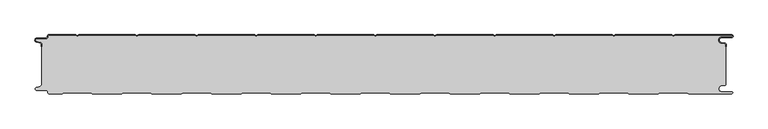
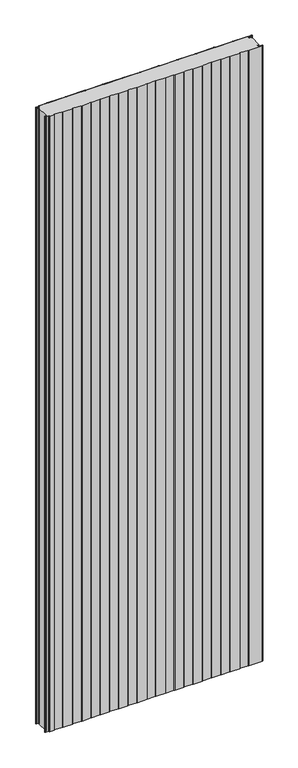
"""IFC4 building model written with IfcOpenShell, lengths in millimetres: plate geometry, PM1_Curtain-Panel_Perfil-Estándar : ACH_PM1_Panel-Acústico-Sectorización_100M."""

from ifc_helpers import new_model, si_unit, point, frame, frame_2d, origin, origin_with_axes, place, context, project, spatial, polyline, circle_curve, trimmed, segment, composite_curve, outline, extrude, source, transform, mapped, element, save
from ifc_brep_helpers import plane_surface, cylinder_surface, revolved_surface, advanced_brep


def plate_bc3a73cf(model_context):
    return source(origin(), model_context, "Body", "SolidModel", [
        advanced_brep(
        [(-575.0, -15.878557, 3500.0), (-575.0, -20.0, 3500.0), (-574.2, -20.0, 3500.0), (-574.2, -15.878557, 3500.0), (-576.370137, -13.1503208, 3500.0), (-582.529863, -11.728236, 3500.0), (-581.9, -6.2, 3500.0), (-566.4, -6.2, 3500.0), (-563.6, -3.4, 3500.0), (-563.6, -2.0, 3500.0), (-562.4, -0.8, 3500.0), (-517.3143588, -0.8, 3500.0), (-514.4, -2.482606, 3500.0), (-511.4856412, -0.8, 3500.0), (-417.3143588, -0.8, 3500.0), (-414.4, -2.482606, 3500.0), (-411.4856412, -0.8, 3500.0), (-317.3143588, -0.8, 3500.0), (-314.4, -2.482606, 3500.0), (-311.4856412, -0.8, 3500.0), (-217.3143588, -0.8, 3500.0), (-214.4, -2.482606, 3500.0), (-211.4856412, -0.8, 3500.0), (-117.3143588, -0.8, 3500.0), (-114.4, -2.482606, 3500.0), (-111.4856412, -0.8, 3500.0), (-17.3143588, -0.8, 3500.0), (-14.4, -2.482606, 3500.0), (-11.4856412, -0.8, 3500.0), (82.6856412, -0.8, 3500.0), (85.6, -2.482606, 3500.0), (88.5143588, -0.8, 3500.0), (182.6856412, -0.8, 3500.0), (185.6, -2.482606, 3500.0), (188.5143588, -0.8, 3500.0), (282.6856412, -0.8, 3500.0), (285.6, -2.482606, 3500.0), (288.5143588, -0.8, 3500.0), (382.6856412, -0.8, 3500.0), (385.6, -2.482606, 3500.0), (388.5143588, -0.8, 3500.0), (482.6856412, -0.8, 3500.0), (485.6, -2.482606, 3500.0), (488.5143588, -0.8, 3500.0), (583.1, -0.8, 3500.0), (583.1, -4.2, 3500.0), (566.1, -4.2, 3500.0), (565.2664884, -13.7270771, 3500.0), (571.7125669, -14.8636953, 3500.0), (573.2, -16.6363492, 3500.0), (573.2, -20.0, 3500.0), (574.0, -20.0, 3500.0), (574.0, -16.6363492, 3500.0), (571.8514855, -14.0758491, 3500.0), (565.405407, -12.939231, 3500.0), (566.1, -5.0, 3500.0), (583.1, -5.0, 3500.0), (585.6, -2.5, 3500.0), (583.1, 0.0, 3500.0), (488.2999995, 0.0, 3500.0), (485.6, -1.5588455, 3500.0), (482.9000005, 0.0, 3500.0), (388.2999995, 0.0, 3500.0), (385.6, -1.5588455, 3500.0), (382.9000005, 0.0, 3500.0), (288.2999995, 0.0, 3500.0), (285.6, -1.5588455, 3500.0), (282.9000005, 0.0, 3500.0), (188.2999995, 0.0, 3500.0), (185.6, -1.5588455, 3500.0), (182.9000005, 0.0, 3500.0), (88.2999995, 0.0, 3500.0), (85.6, -1.5588455, 3500.0), (82.9000005, 0.0, 3500.0), (-11.7000005, 0.0, 3500.0), (-14.4, -1.5588455, 3500.0), (-17.0999995, 0.0, 3500.0), (-111.7000005, 0.0, 3500.0), (-114.4, -1.5588455, 3500.0), (-117.0999995, 0.0, 3500.0), (-211.7000005, 0.0, 3500.0), (-214.4, -1.5588455, 3500.0), (-217.0999995, 0.0, 3500.0), (-311.7000005, 0.0, 3500.0), (-314.4, -1.5588455, 3500.0), (-317.0999995, 0.0, 3500.0), (-411.7000005, 0.0, 3500.0), (-414.4, -1.5588455, 3500.0), (-417.0999995, 0.0, 3500.0), (-511.7000005, 0.0, 3500.0), (-514.4, -1.5588455, 3500.0), (-517.0999995, 0.0, 3500.0), (-562.4, 0.0, 3500.0), (-564.4, -2.0, 3500.0), (-564.4, -3.4, 3500.0), (-566.4, -5.4, 3500.0), (-581.9, -5.4, 3500.0), (-582.7098239, -12.5077322, 3500.0), (-576.5500979, -13.929817, 3500.0), (-575.0, -15.878557, 0.0), (-576.5500978, -13.9298169, 0.0), (-582.7098239, -12.507732, 0.0), (-581.9, -5.4, 0.0), (-566.4, -5.4, 0.0), (-564.4, -3.4, 0.0), (-564.4, -2.0, 0.0), (-562.4, 0.0, 0.0), (-517.0999995, 0.0, 0.0), (-514.4, -1.5588455, 0.0), (-511.7000005, 0.0, 0.0), (-417.0999995, 0.0, 0.0), (-414.4, -1.5588455, 0.0), (-411.7000005, 0.0, 0.0), (-317.0999995, 0.0, 0.0), (-314.4, -1.5588455, 0.0), (-311.7000005, 0.0, 0.0), (-217.0999995, 0.0, 0.0), (-214.4, -1.5588455, 0.0), (-211.7000005, 0.0, 0.0), (-117.0999995, 0.0, 0.0), (-114.4, -1.5588455, 0.0), (-111.7000005, 0.0, 0.0), (-17.0999995, 0.0, 0.0), (-14.4, -1.5588455, 0.0), (-11.7000005, 0.0, 0.0), (82.9000005, 0.0, 0.0), (85.6, -1.5588455, 0.0), (88.2999995, 0.0, 0.0), (182.9000005, 0.0, 0.0), (185.6, -1.5588455, 0.0), (188.2999995, 0.0, 0.0), (282.9000005, 0.0, 0.0), (285.6, -1.5588455, 0.0), (288.2999995, 0.0, 0.0), (382.9000005, 0.0, 0.0), (385.6, -1.5588455, 0.0), (388.2999995, 0.0, 0.0), (482.9000005, 0.0, 0.0), (485.6, -1.5588455, 0.0), (488.2999995, 0.0, 0.0), (583.1, 0.0, 0.0), (585.6, -2.5, 0.0), (583.1, -5.0, 0.0), (566.1, -5.0, 0.0), (565.405407, -12.939231, 0.0), (571.8514855, -14.0758491, 0.0), (574.0, -16.6363492, 0.0), (574.0, -20.0, 0.0), (573.2, -20.0, 0.0), (573.2, -16.6363492, 0.0), (571.7125669, -14.8636953, 0.0), (565.2664884, -13.7270772, 0.0), (566.1, -4.2, 0.0), (583.1, -4.2, 0.0), (583.1, -0.8, 0.0), (488.5143588, -0.8, 0.0), (485.6, -2.482606, 0.0), (482.6856412, -0.8, 0.0), (388.5143588, -0.8, 0.0), (385.6, -2.482606, 0.0), (382.6856412, -0.8, 0.0), (288.5143588, -0.8, 0.0), (285.6, -2.482606, 0.0), (282.6856412, -0.8, 0.0), (188.5143588, -0.8, 0.0), (185.6, -2.482606, 0.0), (182.6856412, -0.8, 0.0), (88.5143588, -0.8, 0.0), (85.6, -2.482606, 0.0), (82.6856412, -0.8, 0.0), (-11.4856412, -0.8, 0.0), (-14.4, -2.482606, 0.0), (-17.3143588, -0.8, 0.0), (-111.4856412, -0.8, 0.0), (-114.4, -2.482606, 0.0), (-117.3143588, -0.8, 0.0), (-211.4856412, -0.8, 0.0), (-214.4, -2.482606, 0.0), (-217.3143588, -0.8, 0.0), (-311.4856412, -0.8, 0.0), (-314.4, -2.482606, 0.0), (-317.3143588, -0.8, 0.0), (-411.4856412, -0.8, 0.0), (-414.4, -2.482606, 0.0), (-417.3143588, -0.8, 0.0), (-511.4856412, -0.8, 0.0), (-514.4, -2.482606, 0.0), (-517.3143588, -0.8, 0.0), (-562.4, -0.8, 0.0), (-563.6, -2.0, 0.0), (-563.6, -3.4, 0.0), (-566.4, -6.2, 0.0), (-581.9, -6.2, 0.0), (-582.529863, -11.7282362, 0.0), (-576.370137, -13.150321, 0.0), (-574.2, -15.878557, 0.0), (-574.2, -20.0, 0.0), (-575.0, -20.0, 0.0)],
        [
            (0, 1),
            (1, 2),
            (2, 3),
            (3, 4, circle_curve(frame((-577.0, -15.878557, 3500.0), z_axis=(0.0, 0.0, 1.0), x_axis=(1.0, 0.0, 0.0)), 2.8)),
            (4, 5),
            (5, 6, circle_curve(frame((-581.9, -9.0, 3500.0), z_axis=(0.0, 0.0, -1.0), x_axis=(1.0, 0.0, 0.0)), 2.8)),
            (6, 7),
            (7, 8, circle_curve(frame((-566.4, -3.4, 3500.0), z_axis=(0.0, 0.0, 1.0), x_axis=(1.0, 0.0, 0.0)), 2.8)),
            (8, 9),
            (9, 10, circle_curve(frame((-562.4, -2.0, 3500.0), z_axis=(0.0, 0.0, -1.0), x_axis=(1.0, 0.0, 0.0)), 1.2)),
            (10, 11),
            (11, 12),
            (12, 13),
            (13, 14),
            (14, 15),
            (15, 16),
            (16, 17),
            (17, 18),
            (18, 19),
            (19, 20),
            (20, 21),
            (21, 22),
            (22, 23),
            (23, 24),
            (24, 25),
            (25, 26),
            (26, 27),
            (27, 28),
            (28, 29),
            (29, 30),
            (30, 31),
            (31, 32),
            (32, 33),
            (33, 34),
            (34, 35),
            (35, 36),
            (36, 37),
            (37, 38),
            (38, 39),
            (39, 40),
            (40, 41),
            (41, 42),
            (42, 43),
            (43, 44),
            (44, 45, circle_curve(frame((583.1, -2.5, 3500.0), z_axis=(0.0, 0.0, -1.0), x_axis=(1.0, 0.0, 0.0)), 1.7)),
            (45, 46),
            (46, 47, circle_curve(frame((566.1, -9.0, 3500.0), z_axis=(0.0, 0.0, 1.0), x_axis=(1.0, 0.0, 0.0)), 4.8)),
            (47, 48),
            (48, 49, circle_curve(frame((571.4, -16.6363492, 3500.0), z_axis=(0.0, 0.0, -1.0), x_axis=(1.0, 0.0, 0.0)), 1.8)),
            (49, 50),
            (50, 51),
            (51, 52),
            (52, 53, circle_curve(frame((571.4, -16.6363492, 3500.0), z_axis=(0.0, 0.0, 1.0), x_axis=(1.0, 0.0, 0.0)), 2.6)),
            (53, 54),
            (54, 55, circle_curve(frame((566.1, -9.0, 3500.0), z_axis=(0.0, 0.0, -1.0), x_axis=(1.0, 0.0, 0.0)), 4.0)),
            (55, 56),
            (56, 57, circle_curve(frame((583.1, -2.5, 3500.0), z_axis=(0.0, 0.0, 1.0), x_axis=(1.0, 0.0, 0.0)), 2.5)),
            (57, 58, circle_curve(frame((583.1, -2.5, 3500.0), z_axis=(0.0, 0.0, 1.0), x_axis=(1.0, 0.0, 0.0)), 2.5)),
            (58, 59),
            (59, 60),
            (60, 61),
            (61, 62),
            (62, 63),
            (63, 64),
            (64, 65),
            (65, 66),
            (66, 67),
            (67, 68),
            (68, 69),
            (69, 70),
            (70, 71),
            (71, 72),
            (72, 73),
            (73, 74),
            (74, 75),
            (75, 76),
            (76, 77),
            (77, 78),
            (78, 79),
            (79, 80),
            (80, 81),
            (81, 82),
            (82, 83),
            (83, 84),
            (84, 85),
            (85, 86),
            (86, 87),
            (87, 88),
            (88, 89),
            (89, 90),
            (90, 91),
            (91, 92),
            (92, 93, circle_curve(frame((-562.4, -2.0, 3500.0), z_axis=(0.0, 0.0, 1.0), x_axis=(1.0, 0.0, 0.0)), 2.0)),
            (93, 94),
            (94, 95, circle_curve(frame((-566.4, -3.4, 3500.0), z_axis=(0.0, 0.0, -1.0), x_axis=(1.0, 0.0, 0.0)), 2.0)),
            (95, 96),
            (96, 97, circle_curve(frame((-581.9, -9.0, 3500.0), z_axis=(0.0, 0.0, 1.0), x_axis=(1.0, 0.0, 0.0)), 3.6)),
            (97, 98),
            (98, 0, circle_curve(frame((-577.0, -15.878557, 3500.0), z_axis=(0.0, 0.0, -1.0), x_axis=(1.0, 0.0, 0.0)), 2.0)),
            (99, 100, circle_curve(frame((-577.0, -15.878557, 0.0), z_axis=(0.0, 0.0, 1.0), x_axis=(1.0, 0.0, 0.0)), 2.0)),
            (100, 101),
            (101, 102, circle_curve(frame((-581.9, -9.0, 0.0), z_axis=(0.0, 0.0, -1.0), x_axis=(1.0, 0.0, 0.0)), 3.6)),
            (102, 103),
            (103, 104, circle_curve(frame((-566.4, -3.4, 0.0), z_axis=(0.0, 0.0, 1.0), x_axis=(1.0, 0.0, 0.0)), 2.0)),
            (104, 105),
            (105, 106, circle_curve(frame((-562.4, -2.0, 0.0), z_axis=(0.0, 0.0, -1.0), x_axis=(1.0, 0.0, 0.0)), 2.0)),
            (106, 107),
            (107, 108),
            (108, 109),
            (109, 110),
            (110, 111),
            (111, 112),
            (112, 113),
            (113, 114),
            (114, 115),
            (115, 116),
            (116, 117),
            (117, 118),
            (118, 119),
            (119, 120),
            (120, 121),
            (121, 122),
            (122, 123),
            (123, 124),
            (124, 125),
            (125, 126),
            (126, 127),
            (127, 128),
            (128, 129),
            (129, 130),
            (130, 131),
            (131, 132),
            (132, 133),
            (133, 134),
            (134, 135),
            (135, 136),
            (136, 137),
            (137, 138),
            (138, 139),
            (139, 140),
            (140, 141, circle_curve(frame((583.1, -2.5, 0.0), z_axis=(0.0, 0.0, -1.0), x_axis=(1.0, 0.0, 0.0)), 2.5)),
            (141, 142, circle_curve(frame((583.1, -2.5, 0.0), z_axis=(0.0, 0.0, -1.0), x_axis=(1.0, 0.0, 0.0)), 2.5)),
            (142, 143),
            (143, 144, circle_curve(frame((566.1, -9.0, 0.0), z_axis=(0.0, 0.0, 1.0), x_axis=(1.0, 0.0, 0.0)), 4.0)),
            (144, 145),
            (145, 146, circle_curve(frame((571.4, -16.6363492, 0.0), z_axis=(0.0, 0.0, -1.0), x_axis=(1.0, 0.0, 0.0)), 2.6)),
            (146, 147),
            (147, 148),
            (148, 149),
            (149, 150, circle_curve(frame((571.4, -16.6363492, 0.0), z_axis=(0.0, 0.0, 1.0), x_axis=(1.0, 0.0, 0.0)), 1.8)),
            (150, 151),
            (151, 152, circle_curve(frame((566.1, -9.0, 0.0), z_axis=(0.0, 0.0, -1.0), x_axis=(1.0, 0.0, 0.0)), 4.8)),
            (152, 153),
            (153, 154, circle_curve(frame((583.1, -2.5, 0.0), z_axis=(0.0, 0.0, 1.0), x_axis=(1.0, 0.0, 0.0)), 1.7)),
            (154, 155),
            (155, 156),
            (156, 157),
            (157, 158),
            (158, 159),
            (159, 160),
            (160, 161),
            (161, 162),
            (162, 163),
            (163, 164),
            (164, 165),
            (165, 166),
            (166, 167),
            (167, 168),
            (168, 169),
            (169, 170),
            (170, 171),
            (171, 172),
            (172, 173),
            (173, 174),
            (174, 175),
            (175, 176),
            (176, 177),
            (177, 178),
            (178, 179),
            (179, 180),
            (180, 181),
            (181, 182),
            (182, 183),
            (183, 184),
            (184, 185),
            (185, 186),
            (186, 187),
            (187, 188),
            (188, 189, circle_curve(frame((-562.4, -2.0, 0.0), z_axis=(0.0, 0.0, 1.0), x_axis=(1.0, 0.0, 0.0)), 1.2)),
            (189, 190),
            (190, 191, circle_curve(frame((-566.4, -3.4, 0.0), z_axis=(0.0, 0.0, -1.0), x_axis=(1.0, 0.0, 0.0)), 2.8)),
            (191, 192),
            (192, 193, circle_curve(frame((-581.9, -9.0, 0.0), z_axis=(0.0, 0.0, 1.0), x_axis=(1.0, 0.0, 0.0)), 2.8)),
            (193, 194),
            (194, 195, circle_curve(frame((-577.0, -15.878557, 0.0), z_axis=(0.0, 0.0, -1.0), x_axis=(1.0, 0.0, 0.0)), 2.8)),
            (195, 196),
            (196, 197),
            (197, 99),
            (0, 99),
            (197, 1),
            (196, 2),
            (195, 3),
            (194, 4),
            (193, 5),
            (192, 6),
            (191, 7),
            (190, 8),
            (189, 9),
            (188, 10),
            (187, 11),
            (186, 12),
            (185, 13),
            (184, 14),
            (183, 15),
            (182, 16),
            (181, 17),
            (180, 18),
            (179, 19),
            (178, 20),
            (177, 21),
            (176, 22),
            (175, 23),
            (174, 24),
            (173, 25),
            (172, 26),
            (171, 27),
            (170, 28),
            (169, 29),
            (168, 30),
            (167, 31),
            (166, 32),
            (165, 33),
            (164, 34),
            (163, 35),
            (162, 36),
            (161, 37),
            (160, 38),
            (159, 39),
            (158, 40),
            (157, 41),
            (156, 42),
            (155, 43),
            (154, 44),
            (153, 45),
            (152, 46),
            (151, 47),
            (150, 48),
            (149, 49),
            (148, 50),
            (147, 51),
            (146, 52),
            (145, 53),
            (144, 54),
            (143, 55),
            (142, 56),
            (140, 58),
            (139, 59),
            (138, 60),
            (137, 61),
            (136, 62),
            (135, 63),
            (134, 64),
            (133, 65),
            (132, 66),
            (131, 67),
            (130, 68),
            (129, 69),
            (128, 70),
            (127, 71),
            (126, 72),
            (125, 73),
            (124, 74),
            (123, 75),
            (122, 76),
            (121, 77),
            (120, 78),
            (119, 79),
            (118, 80),
            (117, 81),
            (116, 82),
            (115, 83),
            (114, 84),
            (113, 85),
            (112, 86),
            (111, 87),
            (110, 88),
            (109, 89),
            (108, 90),
            (107, 91),
            (106, 92),
            (105, 93),
            (104, 94),
            (103, 95),
            (102, 96),
            (101, 97),
            (100, 98),
        ],
        [
            plane_surface(frame((-575.0, 0.0, 3500.0), z_axis=(0.0, 0.0, 1.0), x_axis=(0.0, 1.0, 0.0))),
            plane_surface(frame((-575.0, 0.0, 0.0), z_axis=(0.0, 0.0, -1.0), x_axis=(0.0, 1.0, 0.0))),
            plane_surface(frame((-575.0, -15.878557, 3500.0), z_axis=(-1.0, 0.0, 0.0), x_axis=(0.0, 0.0, -1.0))),
            plane_surface(frame((-575.0, -20.0, 3500.0), z_axis=(0.0, -1.0, 0.0), x_axis=(0.0, 0.0, -1.0))),
            plane_surface(frame((-574.2, -20.0, 3500.0), z_axis=(1.0, 0.0, 0.0), x_axis=(0.0, 0.0, -1.0))),
            cylinder_surface(frame((-577.0, -15.878557, 3500.0), z_axis=(0.0, 0.0, 1.0), x_axis=(1.0, 0.0, 0.0)), 2.8),
            plane_surface(frame((-576.370137, -13.150321, 3500.0), z_axis=(0.22495108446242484, 0.9743700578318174, 0.0), x_axis=(0.0, 0.0, -1.0))),
            revolved_surface(polyline([(-579.1, -9.0, 0.0), (-579.1, -9.0, 3500.0)]), (-581.9, -9.0, 3500.0), (0.0, 0.0, -1.0)),
            plane_surface(frame((-581.9, -6.2, 3500.0), z_axis=(0.0, -1.0, 0.0), x_axis=(0.0, 0.0, -1.0))),
            cylinder_surface(frame((-566.4, -3.4, 3500.0), z_axis=(0.0, 0.0, 1.0), x_axis=(1.0, 0.0, 0.0)), 2.8),
            plane_surface(frame((-563.6, -3.4, 3500.0), z_axis=(1.0, 0.0, 0.0), x_axis=(0.0, 0.0, -1.0))),
            revolved_surface(polyline([(-561.1999999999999, -2.0, 0.0), (-561.1999999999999, -2.0, 3500.0)]), (-562.4, -2.0, 3500.0), (0.0, 0.0, -1.0)),
            plane_surface(frame((-562.4, -0.8, 3500.0), z_axis=(0.0, -1.0, 0.0), x_axis=(0.0, 0.0, -1.0))),
            plane_surface(frame((-517.3143588, -0.8, 3500.0), z_axis=(-0.5000000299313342, -0.8660253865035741, 0.0), x_axis=(0.0, 0.0, -1.0))),
            plane_surface(frame((-514.4, -2.482606, 3500.0), z_axis=(0.5000000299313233, -0.8660253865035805, 0.0), x_axis=(0.0, 0.0, -1.0))),
            plane_surface(frame((-511.4856412, -0.8, 3500.0), z_axis=(0.0, -1.0, 0.0), x_axis=(0.0, 0.0, -1.0))),
            plane_surface(frame((-417.3143588, -0.8, 3500.0), z_axis=(-0.5000000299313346, -0.8660253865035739, 0.0), x_axis=(0.0, 0.0, -1.0))),
            plane_surface(frame((-414.4, -2.482606, 3500.0), z_axis=(0.5000000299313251, -0.8660253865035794, 0.0), x_axis=(0.0, 0.0, -1.0))),
            plane_surface(frame((-411.4856412, -0.8, 3500.0), z_axis=(0.0, -1.0, 0.0), x_axis=(0.0, 0.0, -1.0))),
            plane_surface(frame((-317.3143588, -0.8, 3500.0), z_axis=(-0.5000000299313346, -0.866025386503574, 0.0), x_axis=(0.0, 0.0, -1.0))),
            plane_surface(frame((-314.4, -2.482606, 3500.0), z_axis=(0.5000000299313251, -0.8660253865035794, 0.0), x_axis=(0.0, 0.0, -1.0))),
            plane_surface(frame((-311.4856412, -0.8, 3500.0), z_axis=(0.0, -1.0, 0.0), x_axis=(0.0, 0.0, -1.0))),
            plane_surface(frame((-217.3143588, -0.8, 3500.0), z_axis=(-0.5000000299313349, -0.8660253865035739, 0.0), x_axis=(0.0, 0.0, -1.0))),
            plane_surface(frame((-214.4, -2.482606, 3500.0), z_axis=(0.5000000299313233, -0.8660253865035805, 0.0), x_axis=(0.0, 0.0, -1.0))),
            plane_surface(frame((-211.4856412, -0.8, 3500.0), z_axis=(0.0, -1.0, 0.0), x_axis=(0.0, 0.0, -1.0))),
            plane_surface(frame((-117.3143588, -0.8, 3500.0), z_axis=(-0.5000000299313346, -0.866025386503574, 0.0), x_axis=(0.0, 0.0, -1.0))),
            plane_surface(frame((-114.4, -2.482606, 3500.0), z_axis=(0.5000000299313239, -0.8660253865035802, 0.0), x_axis=(0.0, 0.0, -1.0))),
            plane_surface(frame((-111.4856412, -0.8, 3500.0), z_axis=(0.0, -1.0, 0.0), x_axis=(0.0, 0.0, -1.0))),
            plane_surface(frame((-17.3143588, -0.8, 3500.0), z_axis=(-0.5000000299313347, -0.8660253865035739, 0.0), x_axis=(0.0, 0.0, -1.0))),
            plane_surface(frame((-14.4, -2.482606, 3500.0), z_axis=(0.5000000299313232, -0.8660253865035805, 0.0), x_axis=(0.0, 0.0, -1.0))),
            plane_surface(frame((-11.4856412, -0.8, 3500.0), z_axis=(0.0, -1.0, 0.0), x_axis=(0.0, 0.0, -1.0))),
            plane_surface(frame((82.6856412, -0.8, 3500.0), z_axis=(-0.5000000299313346, -0.866025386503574, 0.0), x_axis=(0.0, 0.0, -1.0))),
            plane_surface(frame((85.6, -2.482606, 3500.0), z_axis=(0.5000000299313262, -0.8660253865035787, 0.0), x_axis=(0.0, 0.0, -1.0))),
            plane_surface(frame((88.5143588, -0.8, 3500.0), z_axis=(0.0, -1.0, 0.0), x_axis=(0.0, 0.0, -1.0))),
            plane_surface(frame((182.6856412, -0.8, 3500.0), z_axis=(-0.5000000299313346, -0.8660253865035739, 0.0), x_axis=(0.0, 0.0, -1.0))),
            plane_surface(frame((185.6, -2.482606, 3500.0), z_axis=(0.5000000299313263, -0.8660253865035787, 0.0), x_axis=(0.0, 0.0, -1.0))),
            plane_surface(frame((188.5143588, -0.8, 3500.0), z_axis=(0.0, -1.0, 0.0), x_axis=(0.0, 0.0, -1.0))),
            plane_surface(frame((282.6856412, -0.8, 3500.0), z_axis=(-0.5000000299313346, -0.8660253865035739, 0.0), x_axis=(0.0, 0.0, -1.0))),
            plane_surface(frame((285.6, -2.482606, 3500.0), z_axis=(0.5000000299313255, -0.8660253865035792, 0.0), x_axis=(0.0, 0.0, -1.0))),
            plane_surface(frame((288.5143588, -0.8, 3500.0), z_axis=(0.0, -1.0, 0.0), x_axis=(0.0, 0.0, -1.0))),
            plane_surface(frame((382.6856412, -0.8, 3500.0), z_axis=(-0.5000000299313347, -0.8660253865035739, 0.0), x_axis=(0.0, 0.0, -1.0))),
            plane_surface(frame((385.6, -2.482606, 3500.0), z_axis=(0.5000000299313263, -0.8660253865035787, 0.0), x_axis=(0.0, 0.0, -1.0))),
            plane_surface(frame((388.5143588, -0.8, 3500.0), z_axis=(0.0, -1.0, 0.0), x_axis=(0.0, 0.0, -1.0))),
            plane_surface(frame((482.6856412, -0.8, 3500.0), z_axis=(-0.5000000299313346, -0.866025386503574, 0.0), x_axis=(0.0, 0.0, -1.0))),
            plane_surface(frame((485.6, -2.482606, 3500.0), z_axis=(0.5000000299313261, -0.8660253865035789, 0.0), x_axis=(0.0, 0.0, -1.0))),
            plane_surface(frame((535.6, -0.8, 3500.0), z_axis=(0.0, -1.0, 0.0), x_axis=(0.0, 0.0, -1.0))),
            revolved_surface(polyline([(584.8000000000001, -2.5, 0.0), (584.8000000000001, -2.5, 3500.0)]), (583.1, -2.5, 3500.0), (0.0, 0.0, -1.0)),
            plane_surface(frame((583.1, -4.2, 3500.0), z_axis=(0.0, 1.0, 0.0), x_axis=(0.0, 0.0, -1.0))),
            cylinder_surface(frame((566.1, -9.0, 3500.0), z_axis=(0.0, 0.0, 1.0), x_axis=(1.0, 0.0, 0.0)), 4.8),
            plane_surface(frame((565.2664884, -13.7270772, 3500.0), z_axis=(-0.17364825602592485, -0.9848077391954, 0.0), x_axis=(0.0, 0.0, -1.0))),
            revolved_surface(polyline([(573.1999999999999, -16.6363492, 0.0), (573.1999999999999, -16.6363492, 3500.0)]), (571.4, -16.6363492, 3500.0), (0.0, 0.0, -1.0)),
            plane_surface(frame((573.2, -16.6363492, 3500.0), z_axis=(-1.0, 0.0, 0.0), x_axis=(0.0, 0.0, -1.0))),
            plane_surface(frame((573.2, -20.0, 3500.0), z_axis=(0.0, -1.0, 0.0), x_axis=(0.0, 0.0, -1.0))),
            plane_surface(frame((574.0, -20.0, 3500.0), z_axis=(1.0, 0.0, 0.0), x_axis=(0.0, 0.0, -1.0))),
            cylinder_surface(frame((571.4, -16.6363492, 3500.0), z_axis=(0.0, 0.0, 1.0), x_axis=(1.0, 0.0, 0.0)), 2.6),
            plane_surface(frame((571.8514855, -14.0758491, 3500.0), z_axis=(0.1736482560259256, 0.9848077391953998, 0.0), x_axis=(0.0, 0.0, -1.0))),
            revolved_surface(polyline([(570.1, -9.0, 0.0), (570.1, -9.0, 3500.0)]), (566.1, -9.0, 3500.0), (0.0, 0.0, -1.0)),
            plane_surface(frame((566.1, -5.0, 3500.0), z_axis=(0.0, -1.0, 0.0), x_axis=(0.0, 0.0, -1.0))),
            cylinder_surface(frame((583.1, -2.5, 3500.0), z_axis=(0.0, 0.0, 1.0), x_axis=(1.0, 0.0, 0.0)), 2.5),
            plane_surface(frame((535.6, 0.0, 3500.0), z_axis=(0.0, 1.0, 0.0), x_axis=(0.0, 0.0, -1.0))),
            plane_surface(frame((488.2999995, 0.0, 3500.0), z_axis=(-0.5000000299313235, 0.8660253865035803, 0.0), x_axis=(0.0, 0.0, -1.0))),
            plane_surface(frame((485.6, -1.5588455, 3500.0), z_axis=(0.5000000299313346, 0.8660253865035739, 0.0), x_axis=(0.0, 0.0, -1.0))),
            plane_surface(frame((482.9000005, 0.0, 3500.0), z_axis=(0.0, 1.0, 0.0), x_axis=(0.0, 0.0, -1.0))),
            plane_surface(frame((388.2999995, 0.0, 3500.0), z_axis=(-0.5000000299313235, 0.8660253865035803, 0.0), x_axis=(0.0, 0.0, -1.0))),
            plane_surface(frame((385.6, -1.5588455, 3500.0), z_axis=(0.5000000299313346, 0.8660253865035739, 0.0), x_axis=(0.0, 0.0, -1.0))),
            plane_surface(frame((382.9000005, 0.0, 3500.0), z_axis=(0.0, 1.0, 0.0), x_axis=(0.0, 0.0, -1.0))),
            plane_surface(frame((288.2999995, 0.0, 3500.0), z_axis=(-0.5000000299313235, 0.8660253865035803, 0.0), x_axis=(0.0, 0.0, -1.0))),
            plane_surface(frame((285.6, -1.5588455, 3500.0), z_axis=(0.5000000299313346, 0.8660253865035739, 0.0), x_axis=(0.0, 0.0, -1.0))),
            plane_surface(frame((282.9000005, 0.0, 3500.0), z_axis=(0.0, 1.0, 0.0), x_axis=(0.0, 0.0, -1.0))),
            plane_surface(frame((188.2999995, 0.0, 3500.0), z_axis=(-0.5000000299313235, 0.8660253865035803, 0.0), x_axis=(0.0, 0.0, -1.0))),
            plane_surface(frame((185.6, -1.5588455, 3500.0), z_axis=(0.5000000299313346, 0.8660253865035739, 0.0), x_axis=(0.0, 0.0, -1.0))),
            plane_surface(frame((182.9000005, 0.0, 3500.0), z_axis=(0.0, 1.0, 0.0), x_axis=(0.0, 0.0, -1.0))),
            plane_surface(frame((88.2999995, 0.0, 3500.0), z_axis=(-0.5000000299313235, 0.8660253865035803, 0.0), x_axis=(0.0, 0.0, -1.0))),
            plane_surface(frame((85.6, -1.5588455, 3500.0), z_axis=(0.5000000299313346, 0.8660253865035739, 0.0), x_axis=(0.0, 0.0, -1.0))),
            plane_surface(frame((82.9000005, 0.0, 3500.0), z_axis=(0.0, 1.0, 0.0), x_axis=(0.0, 0.0, -1.0))),
            plane_surface(frame((-11.7000005, 0.0, 3500.0), z_axis=(-0.5000000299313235, 0.8660253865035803, 0.0), x_axis=(0.0, 0.0, -1.0))),
            plane_surface(frame((-14.4, -1.5588455, 3500.0), z_axis=(0.5000000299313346, 0.8660253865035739, 0.0), x_axis=(0.0, 0.0, -1.0))),
            plane_surface(frame((-17.0999995, 0.0, 3500.0), z_axis=(0.0, 1.0, 0.0), x_axis=(0.0, 0.0, -1.0))),
            plane_surface(frame((-111.7000005, 0.0, 3500.0), z_axis=(-0.5000000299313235, 0.8660253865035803, 0.0), x_axis=(0.0, 0.0, -1.0))),
            plane_surface(frame((-114.4, -1.5588455, 3500.0), z_axis=(0.5000000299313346, 0.8660253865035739, 0.0), x_axis=(0.0, 0.0, -1.0))),
            plane_surface(frame((-117.0999995, 0.0, 3500.0), z_axis=(0.0, 1.0, 0.0), x_axis=(0.0, 0.0, -1.0))),
            plane_surface(frame((-211.7000005, 0.0, 3500.0), z_axis=(-0.5000000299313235, 0.8660253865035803, 0.0), x_axis=(0.0, 0.0, -1.0))),
            plane_surface(frame((-214.4, -1.5588455, 3500.0), z_axis=(0.5000000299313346, 0.8660253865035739, 0.0), x_axis=(0.0, 0.0, -1.0))),
            plane_surface(frame((-217.0999995, 0.0, 3500.0), z_axis=(0.0, 1.0, 0.0), x_axis=(0.0, 0.0, -1.0))),
            plane_surface(frame((-311.7000005, 0.0, 3500.0), z_axis=(-0.5000000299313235, 0.8660253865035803, 0.0), x_axis=(0.0, 0.0, -1.0))),
            plane_surface(frame((-314.4, -1.5588455, 3500.0), z_axis=(0.5000000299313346, 0.8660253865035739, 0.0), x_axis=(0.0, 0.0, -1.0))),
            plane_surface(frame((-317.0999995, 0.0, 3500.0), z_axis=(0.0, 1.0, 0.0), x_axis=(0.0, 0.0, -1.0))),
            plane_surface(frame((-411.7000005, 0.0, 3500.0), z_axis=(-0.5000000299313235, 0.8660253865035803, 0.0), x_axis=(0.0, 0.0, -1.0))),
            plane_surface(frame((-414.4, -1.5588455, 3500.0), z_axis=(0.5000000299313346, 0.8660253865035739, 0.0), x_axis=(0.0, 0.0, -1.0))),
            plane_surface(frame((-417.0999995, 0.0, 3500.0), z_axis=(0.0, 1.0, 0.0), x_axis=(0.0, 0.0, -1.0))),
            plane_surface(frame((-511.7000005, 0.0, 3500.0), z_axis=(-0.5000000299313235, 0.8660253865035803, 0.0), x_axis=(0.0, 0.0, -1.0))),
            plane_surface(frame((-514.4, -1.5588455, 3500.0), z_axis=(0.5000000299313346, 0.8660253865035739, 0.0), x_axis=(0.0, 0.0, -1.0))),
            plane_surface(frame((-517.0999995, 0.0, 3500.0), z_axis=(0.0, 1.0, 0.0), x_axis=(0.0, 0.0, -1.0))),
            cylinder_surface(frame((-562.4, -2.0, 3500.0), z_axis=(0.0, 0.0, 1.0), x_axis=(1.0, 0.0, 0.0)), 2.0),
            plane_surface(frame((-564.4, -2.0, 3500.0), z_axis=(-1.0, 0.0, 0.0), x_axis=(0.0, 0.0, -1.0))),
            revolved_surface(polyline([(-564.4, -3.4, 0.0), (-564.4, -3.4, 3500.0)]), (-566.4, -3.4, 3500.0), (0.0, 0.0, -1.0)),
            plane_surface(frame((-566.4, -5.4, 3500.0), z_axis=(0.0, 1.0, 0.0), x_axis=(0.0, 0.0, -1.0))),
            cylinder_surface(frame((-581.9, -9.0, 3500.0), z_axis=(0.0, 0.0, 1.0), x_axis=(1.0, 0.0, 0.0)), 3.6),
            plane_surface(frame((-582.7098239, -12.507732, 3500.0), z_axis=(-0.22495108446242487, -0.9743700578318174, 0.0), x_axis=(0.0, 0.0, -1.0))),
            revolved_surface(polyline([(-575.0, -15.878557, 0.0), (-575.0, -15.878557, 3500.0)]), (-577.0, -15.878557, 3500.0), (0.0, 0.0, -1.0)),
        ],
        [
            (0, [[1, 2, 3, 4, 5, 6, 7, 8, 9, 10, 11, 12, 13, 14, 15, 16, 17, 18, 19, 20, 21, 22, 23, 24, 25, 26, 27, 28, 29, 30, 31, 32, 33, 34, 35, 36, 37, 38, 39, 40, 41, 42, 43, 44, 45, 46, 47, 48, 49, 50, 51, 52, 53, 54, 55, 56, 57, 58, 59, 60, 61, 62, 63, 64, 65, 66, 67, 68, 69, 70, 71, 72, 73, 74, 75, 76, 77, 78, 79, 80, 81, 82, 83, 84, 85, 86, 87, 88, 89, 90, 91, 92, 93, 94, 95, 96, 97, 98, 99]]),
            (1, [[100, 101, 102, 103, 104, 105, 106, 107, 108, 109, 110, 111, 112, 113, 114, 115, 116, 117, 118, 119, 120, 121, 122, 123, 124, 125, 126, 127, 128, 129, 130, 131, 132, 133, 134, 135, 136, 137, 138, 139, 140, 141, 142, 143, 144, 145, 146, 147, 148, 149, 150, 151, 152, 153, 154, 155, 156, 157, 158, 159, 160, 161, 162, 163, 164, 165, 166, 167, 168, 169, 170, 171, 172, 173, 174, 175, 176, 177, 178, 179, 180, 181, 182, 183, 184, 185, 186, 187, 188, 189, 190, 191, 192, 193, 194, 195, 196, 197, 198]]),
            (2, [[-1, 199, -198, 200]]),
            (3, [[-2, -200, -197, 201]]),
            (4, [[-3, -201, -196, 202]]),
            (5, [[-4, -202, -195, 203]]),
            (6, [[-5, -203, -194, 204]]),
            (7, [[-6, -204, -193, 205]]),
            (8, [[-7, -205, -192, 206]]),
            (9, [[-8, -206, -191, 207]]),
            (10, [[-9, -207, -190, 208]]),
            (11, [[-10, -208, -189, 209]]),
            (12, [[-11, -209, -188, 210]]),
            (13, [[-12, -210, -187, 211]]),
            (14, [[-13, -211, -186, 212]]),
            (15, [[-14, -212, -185, 213]]),
            (16, [[-15, -213, -184, 214]]),
            (17, [[-16, -214, -183, 215]]),
            (18, [[-17, -215, -182, 216]]),
            (19, [[-18, -216, -181, 217]]),
            (20, [[-19, -217, -180, 218]]),
            (21, [[-20, -218, -179, 219]]),
            (22, [[-21, -219, -178, 220]]),
            (23, [[-22, -220, -177, 221]]),
            (24, [[-23, -221, -176, 222]]),
            (25, [[-24, -222, -175, 223]]),
            (26, [[-25, -223, -174, 224]]),
            (27, [[-26, -224, -173, 225]]),
            (28, [[-27, -225, -172, 226]]),
            (29, [[-28, -226, -171, 227]]),
            (30, [[-29, -227, -170, 228]]),
            (31, [[-30, -228, -169, 229]]),
            (32, [[-31, -229, -168, 230]]),
            (33, [[-32, -230, -167, 231]]),
            (34, [[-33, -231, -166, 232]]),
            (35, [[-34, -232, -165, 233]]),
            (36, [[-35, -233, -164, 234]]),
            (37, [[-36, -234, -163, 235]]),
            (38, [[-37, -235, -162, 236]]),
            (39, [[-38, -236, -161, 237]]),
            (40, [[-39, -237, -160, 238]]),
            (41, [[-40, -238, -159, 239]]),
            (42, [[-41, -239, -158, 240]]),
            (43, [[-42, -240, -157, 241]]),
            (44, [[-43, -241, -156, 242]]),
            (45, [[-44, -242, -155, 243]]),
            (46, [[-45, -243, -154, 244]]),
            (47, [[-46, -244, -153, 245]]),
            (48, [[-47, -245, -152, 246]]),
            (49, [[-48, -246, -151, 247]]),
            (50, [[-49, -247, -150, 248]]),
            (51, [[-50, -248, -149, 249]]),
            (52, [[-51, -249, -148, 250]]),
            (53, [[-52, -250, -147, 251]]),
            (54, [[-53, -251, -146, 252]]),
            (55, [[-54, -252, -145, 253]]),
            (56, [[-55, -253, -144, 254]]),
            (57, [[-56, -254, -143, 255]]),
            (58, [[-255, -142, -141, 256, -58, -57]]),
            (59, [[-59, -256, -140, 257]]),
            (60, [[-60, -257, -139, 258]]),
            (61, [[-61, -258, -138, 259]]),
            (62, [[-62, -259, -137, 260]]),
            (63, [[-63, -260, -136, 261]]),
            (64, [[-64, -261, -135, 262]]),
            (65, [[-65, -262, -134, 263]]),
            (66, [[-66, -263, -133, 264]]),
            (67, [[-67, -264, -132, 265]]),
            (68, [[-68, -265, -131, 266]]),
            (69, [[-69, -266, -130, 267]]),
            (70, [[-70, -267, -129, 268]]),
            (71, [[-71, -268, -128, 269]]),
            (72, [[-72, -269, -127, 270]]),
            (73, [[-73, -270, -126, 271]]),
            (74, [[-74, -271, -125, 272]]),
            (75, [[-75, -272, -124, 273]]),
            (76, [[-76, -273, -123, 274]]),
            (77, [[-77, -274, -122, 275]]),
            (78, [[-78, -275, -121, 276]]),
            (79, [[-79, -276, -120, 277]]),
            (80, [[-80, -277, -119, 278]]),
            (81, [[-81, -278, -118, 279]]),
            (82, [[-82, -279, -117, 280]]),
            (83, [[-83, -280, -116, 281]]),
            (84, [[-84, -281, -115, 282]]),
            (85, [[-85, -282, -114, 283]]),
            (86, [[-86, -283, -113, 284]]),
            (87, [[-87, -284, -112, 285]]),
            (88, [[-88, -285, -111, 286]]),
            (89, [[-89, -286, -110, 287]]),
            (90, [[-90, -287, -109, 288]]),
            (91, [[-91, -288, -108, 289]]),
            (92, [[-92, -289, -107, 290]]),
            (93, [[-93, -290, -106, 291]]),
            (94, [[-94, -291, -105, 292]]),
            (95, [[-95, -292, -104, 293]]),
            (96, [[-96, -293, -103, 294]]),
            (97, [[-97, -294, -102, 295]]),
            (98, [[-98, -295, -101, 296]]),
            (99, [[-99, -296, -100, -199]]),
        ],
    ),
        extrude(outline(composite_curve([segment(polyline([(-574.2, -84.121443), (-574.2, -15.8785573)]), True, "CONTINUOUS"), segment(trimmed(circle_curve(frame_2d((-577.0, -15.8785573)), 2.8), [point((-574.2, -15.8785573))], [point((-576.370137, -13.1503212))], True, "CARTESIAN"), True, "CONTINUOUS"), segment(polyline([(-576.370137, -13.1503212), (-582.5298631, -11.7282362)]), True, "CONTINUOUS"), segment(trimmed(circle_curve(frame_2d((-581.9, -9.0)), 2.8), [point((-582.5298631, -11.7282362))], [point((-581.9, -6.2))], False, "CARTESIAN"), True, "CONTINUOUS"), segment(polyline([(-581.9, -6.2), (-566.4000001, -6.2)]), True, "CONTINUOUS"), segment(trimmed(circle_curve(frame_2d((-566.4000001, -3.4)), 2.8), [point((-566.4000001, -6.2))], [point((-563.6000001, -3.4))], True, "CARTESIAN"), True, "CONTINUOUS"), segment(polyline([(-563.6000001, -3.4), (-563.6000001, -2.0)]), True, "CONTINUOUS"), segment(trimmed(circle_curve(frame_2d((-562.4000001, -2.0)), 1.2), [point((-563.6000001, -2.0))], [point((-562.4000001, -0.8))], False, "CARTESIAN"), True, "CONTINUOUS"), segment(polyline([(-562.4000001, -0.8), (-517.3143589, -0.8), (-514.4000001, -2.482606), (-511.4856412, -0.8), (-417.3143589, -0.8), (-414.4000001, -2.482606), (-411.4856412, -0.8), (-317.3143589, -0.8), (-314.4000001, -2.482606), (-311.4856412, -0.8), (-217.3143589, -0.8), (-214.4000001, -2.482606), (-211.4856412, -0.8), (-117.3143589, -0.8), (-114.4000001, -2.482606), (-111.4856412, -0.8), (-17.3143589, -0.8), (-14.4000001, -2.482606), (-11.4856412, -0.8), (82.6856411, -0.8), (85.5999999, -2.482606), (88.5143588, -0.8), (182.6856411, -0.8), (185.5999999, -2.482606), (188.5143588, -0.8), (282.6856411, -0.8), (285.5999999, -2.482606), (288.5143588, -0.8), (382.6856411, -0.8), (385.5999999, -2.482606), (388.5143588, -0.8), (482.6856411, -0.8), (485.6, -2.482606), (488.5143588, -0.8), (583.1, -0.8)]), True, "CONTINUOUS"), segment(trimmed(circle_curve(frame_2d((583.1, -2.5)), 1.7), [point((583.1, -0.8))], [point((583.1, -4.2))], False, "CARTESIAN"), True, "CONTINUOUS"), segment(polyline([(583.1, -4.2), (566.1, -4.2)]), True, "CONTINUOUS"), segment(trimmed(circle_curve(frame_2d((566.1, -9.0)), 4.8), [point((566.1, -4.2))], [point((565.2664883, -13.7270771))], True, "CARTESIAN"), True, "CONTINUOUS"), segment(polyline([(565.2664883, -13.7270771), (571.7125668, -14.8636953)]), True, "CONTINUOUS"), segment(trimmed(circle_curve(frame_2d((571.4, -16.6363492)), 1.8), [point((571.7125668, -14.8636953))], [point((573.2, -16.6363492))], False, "CARTESIAN"), True, "CONTINUOUS"), segment(polyline([(573.2, -16.6363492), (573.2, -83.363652)]), True, "CONTINUOUS"), segment(trimmed(circle_curve(frame_2d((571.4, -83.363652)), 1.8), [point((573.2, -83.363652))], [point((571.7125666, -85.1363059))], False, "CARTESIAN"), True, "CONTINUOUS"), segment(polyline([(571.7125666, -85.1363059), (565.266489, -86.272923)]), True, "CONTINUOUS"), segment(trimmed(circle_curve(frame_2d((566.1, -91.0000002)), 4.7999999), [point((565.266489, -86.272923))], [point((566.1, -95.8000001))], True, "CARTESIAN"), True, "CONTINUOUS"), segment(polyline([(566.1, -95.8000001), (583.1, -95.8000001)]), True, "CONTINUOUS"), segment(trimmed(circle_curve(frame_2d((583.1, -97.5)), 1.7), [point((583.1, -95.8000001))], [point((583.1, -99.2))], False, "CARTESIAN"), True, "CONTINUOUS"), segment(polyline([(583.1, -99.2), (510.8105122, -99.2), (508.2124346, -97.7), (462.9837184, -97.7), (460.3856408, -99.2), (410.8105122, -99.2), (408.2124346, -97.7), (362.9837184, -97.7), (360.3856408, -99.2), (310.8105122, -99.2), (308.2124346, -97.7), (262.9837184, -97.7), (260.3856408, -99.2), (210.8105122, -99.2), (208.2124346, -97.7), (162.9837184, -97.7), (160.3856408, -99.2), (110.8105122, -99.2), (108.2124346, -97.7), (62.9837184, -97.7), (60.3856408, -99.2), (10.8105122, -99.2), (8.2124346, -97.7), (-37.0162816, -97.7), (-39.6143592, -99.2), (-89.1894878, -99.2), (-91.7875654, -97.7), (-137.0162816, -97.7), (-139.6143592, -99.2), (-189.1894878, -99.2), (-191.7875654, -97.7), (-237.0162816, -97.7), (-239.6143592, -99.2), (-289.1894878, -99.2), (-291.7875654, -97.7), (-337.0162816, -97.7), (-339.6143592, -99.2), (-389.1894878, -99.2), (-391.7875654, -97.7), (-437.0162816, -97.7), (-439.6143592, -99.2), (-489.1894878, -99.2), (-491.7875654, -97.7), (-537.0162816, -97.7), (-539.6143592, -99.2), (-562.4, -99.2)]), True, "CONTINUOUS"), segment(trimmed(circle_curve(frame_2d((-562.4, -98.0)), 1.2), [point((-562.4, -99.2))], [point((-563.6, -98.0))], False, "CARTESIAN"), True, "CONTINUOUS"), segment(polyline([(-563.6, -98.0), (-563.6, -96.5999998)]), True, "CONTINUOUS"), segment(trimmed(circle_curve(frame_2d((-566.4, -96.5999998)), 2.8), [point((-563.6, -96.5999998))], [point((-566.4, -93.7999998))], True, "CARTESIAN"), True, "CONTINUOUS"), segment(polyline([(-566.4, -93.7999998), (-581.9, -93.7999998)]), True, "CONTINUOUS"), segment(trimmed(circle_curve(frame_2d((-581.9, -91.0)), 2.7999998), [point((-581.9, -93.7999998))], [point((-582.529863, -88.271764))], False, "CARTESIAN"), True, "CONTINUOUS"), segment(polyline([(-582.529863, -88.271764), (-576.370137, -86.8496792)]), True, "CONTINUOUS"), segment(trimmed(circle_curve(frame_2d((-577.0, -84.121443)), 2.8), [point((-576.370137, -86.8496792))], [point((-574.2, -84.121443))], True, "CARTESIAN"), True, "CONTINUOUS")], self_intersect=False)), origin_with_axes(), (0.0, 0.0, 1.0), 3500.0),
    ])


if __name__ == "__main__":
    model = new_model("IFC4")
    model_context = context("Model", 3, world=origin())
    ifc_project = project(units=[si_unit("LENGTHUNIT", "METRE", prefix="MILLI")], contexts=[model_context])
    site = spatial("IfcSite", under=ifc_project)
    building = spatial("IfcBuilding", under=site)
    placement = place(None, origin())
    plate_shape = plate_bc3a73cf(model_context)
    element("IfcPlate", 1, ObjectType="PM1_Curtain-Panel_Perfil-Estándar : ACH_PM1_Panel-Acústico-Sectorización_100M", at=placement, inside=building, context=model_context, shape_type="MappedRepresentation", body=[
        mapped(plate_shape, transform((0.0, 0.0, 0.0), x_axis=(1.0, 0.0, 0.0), y_axis=(0.0, 1.0, 0.0), z_axis=(0.0, 0.0, 1.0))),
    ])
    save(model, "model.ifc")
